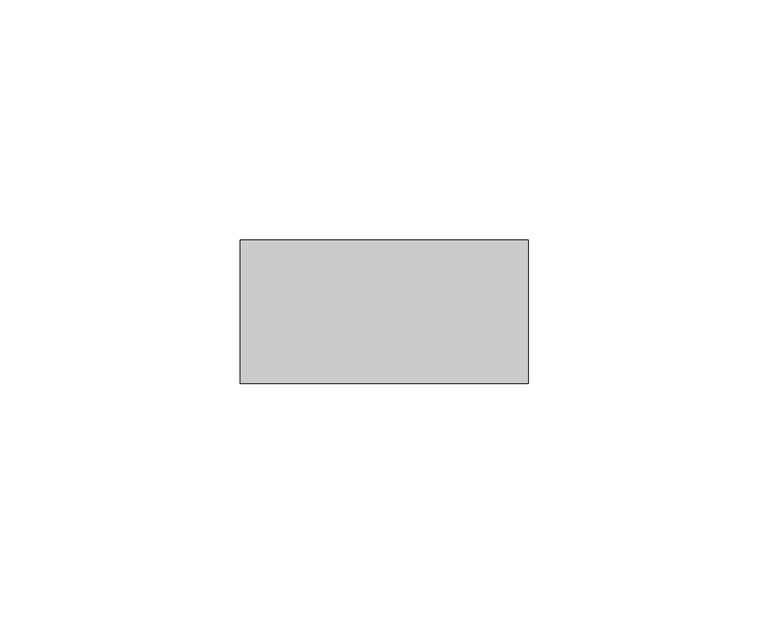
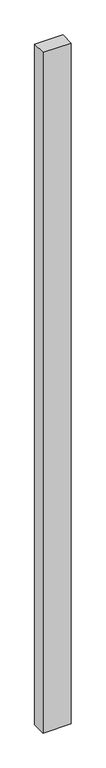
"""IFC4 building model written with IfcOpenShell, lengths in millimetres: member geometry, Прямоугольный импост : Квадрат 30 мм."""

from ifc_helpers import new_model, si_unit, frame, origin, place, context, project, spatial, polyline, outline, extrude, source, transform, mapped, element, save


def member_ea4c6d55(model_context):
    return source(origin(), model_context, "Body", "SweptSolid", [
        extrude(outline(polyline([(30.0, 15.0), (30.0, -15.0), (-30.0, -15.0), (-30.0, 15.0), (30.0, 15.0)])), frame((0.0, 0.0, -1530.0), z_axis=(0.0, 0.0, 1.0), x_axis=(1.0, 0.0, 0.0)), (0.0, 0.0, 1.0), 1530.0),
    ])


if __name__ == "__main__":
    model = new_model("IFC4")
    model_context = context("Model", 3, world=origin())
    ifc_project = project(units=[si_unit("LENGTHUNIT", "METRE", prefix="MILLI")], contexts=[model_context])
    site = spatial("IfcSite", under=ifc_project)
    building = spatial("IfcBuilding", under=site)
    placement = place(None, origin())
    member_shape = member_ea4c6d55(model_context)
    element("IfcMember", 1, ObjectType="Прямоугольный импост : Квадрат 30 мм", at=placement, inside=building, context=model_context, shape_type="MappedRepresentation", body=[
        mapped(member_shape, transform((0.0, 0.0, 0.0), x_axis=(1.0, 0.0, 0.0), y_axis=(0.0, 1.0, 0.0), z_axis=(0.0, 0.0, 1.0))),
    ])
    save(model, "model.ifc")
